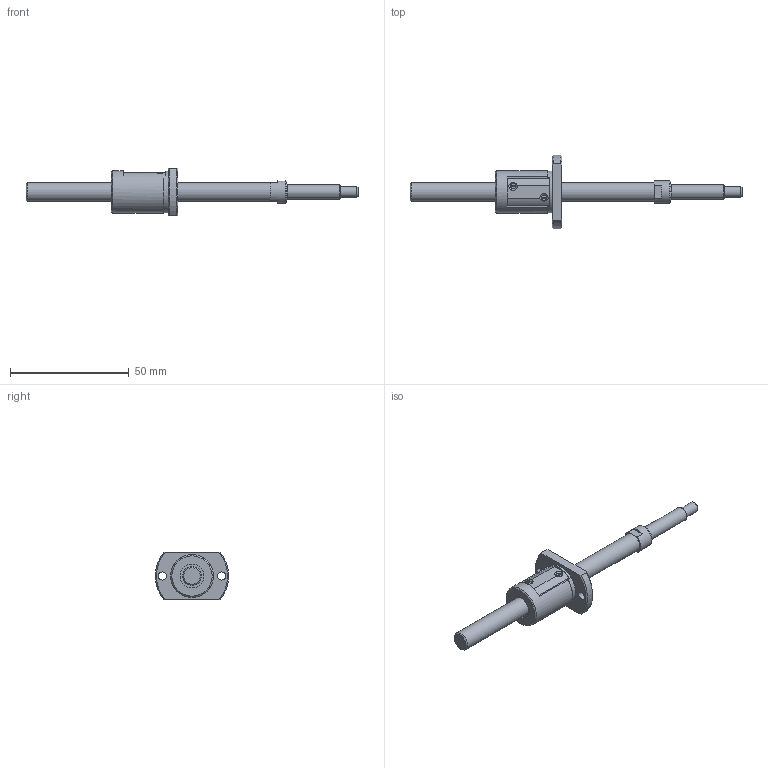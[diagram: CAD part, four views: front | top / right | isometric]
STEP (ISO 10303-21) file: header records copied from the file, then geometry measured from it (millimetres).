
FILE_DESCRIPTION( ( 'STEP AP214' ), '1' );
FILE_NAME( 'p:/temp/worker_6/3108_1760/app_75_12015063014080988919024260eae72_00_00_00_000/STEP/SG0805-099R140C3A1X_36__2_14.stp', ' ', ( ' ' ), ( ' ' ), 'PSStep 15.0.47', 'PARTsolutions', ' ' );
FILE_SCHEMA( ( 'AUTOMOTIVE_DESIGN { 1 0 10303 214 1 1 1 1 }' ) );
Length unit declared in the file: millimetre
Products named in the file (3): SG0805-099R140C3A1X(36); _SG0805-99R140C3A_shaft; _SG0805_nut
Assembly tree (2 placements, depth 2):
  SG0805-099R140C3A1X(36)
    _SG0805-99R140C3A_shaft
    _SG0805_nut
Bounding box: 140 x 30.91 x 20 mm (x, y, z)
Volume: 13093.5 mm3; surface area: 6976.4 mm2
Topology: 2 solids, 2 shells, 72 faces, 177 edges, 116 vertices
Faces by surface type: plane 35, cylinder 23, cone 13, torus 1
Full cylindrical faces by diameter (mm): 3.4 x2, 4.5 x1, 6 x1, 8 x2, 9.5 x1, 10 x2, 17.7 x1, 18 x1
Entity records: 2622 total; most frequent: CARTESIAN_POINT 397, DIRECTION 346, ORIENTED_EDGE 292, EDGE_CURVE 146, AXIS2_PLACEMENT_3D 143, EDGE_LOOP 106, VERTEX_POINT 106, FACE_OUTER_BOUND 84
